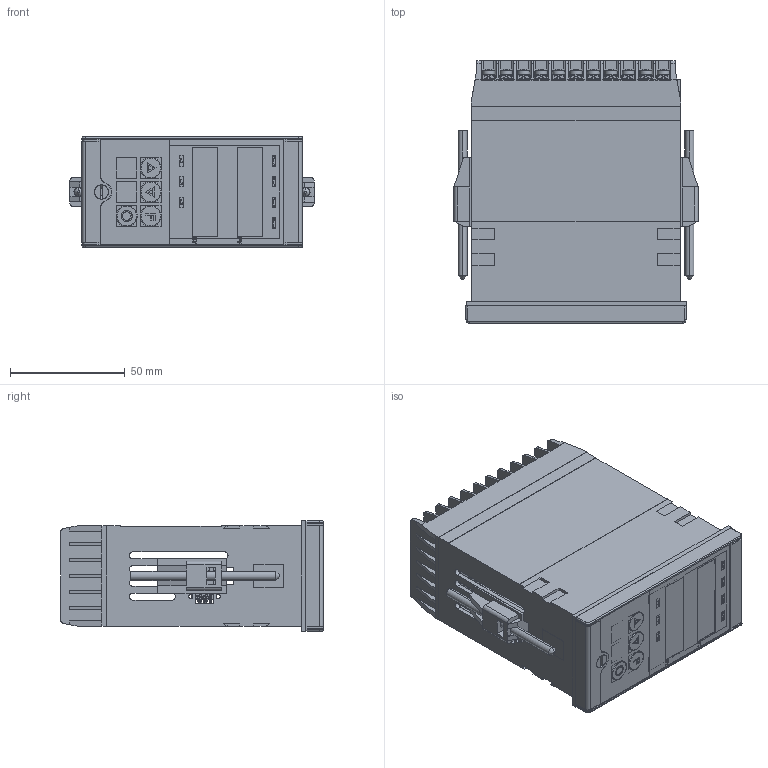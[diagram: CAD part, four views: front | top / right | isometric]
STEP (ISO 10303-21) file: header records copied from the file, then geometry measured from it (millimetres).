
FILE_DESCRIPTION((''),'2;1');
FILE_NAME('STRUMENTO_1200','2019-07-24T16:57:52',('paolo.garatti'),('GEFRAN S.p.A via Carducci,24 21040 Gerenzano (VA)'),'CREO PARAMETRIC BY PTC INC, 2018300','CREO PARAMETRIC BY PTC INC, 2018300','');
FILE_SCHEMA(('AUTOMOTIVE_DESIGN { 1 0 10303 214 1 1 1 1 }'));
Products named in the file (15): 51326S_FRONTALE_48X96_VERT; 51215_SCATOLA48X96_CORTA; 51281; 452143; CONN_PROG_90; 4785D3; 48034_VITE_TSP_M3X26; 49044_BLOCCHETTO_CHIUSURA; PIASTRINA_CONTATTO; 1455D_; PIASTRINA; 1455D2; BLOCK; STRUMENTO_1200
Assembly tree (58 placements, depth 3):
  STRUMENTO_1200
    51326S_FRONTALE_48X96_VERT
    51215_SCATOLA48X96_CORTA
    51281
    452143
      452143
      CONN_PROG_90
    4785D3
    48034_VITE_TSP_M3X26
    49044_BLOCCHETTO_CHIUSURA
    PIASTRINA_CONTATTO  x22
    1455D2  x22
      1455D_
      PIASTRINA
    CONN_PROG_90
    BLOCK  x2
Bounding box: 106.6 x 114.54 x 48 mm (x, y, z)
Volume: 111856.5 mm3; surface area: 135584.1 mm2
Topology: 79 solids, 79 shells, 7305 faces, 19276 edges, 12240 vertices
Faces by surface type: plane 4130, cylinder 2051, bspline 752, torus 242, cone 86, sphere 44
Entity records: 129182 total; most frequent: CARTESIAN_POINT 22417, ORIENTED_EDGE 17656, DIRECTION 15738, EDGE_CURVE 8828, VECTOR 7470, LINE 7470, PRESENTATION_STYLE_ASSIGNMENT 6714, STYLED_ITEM 6650
